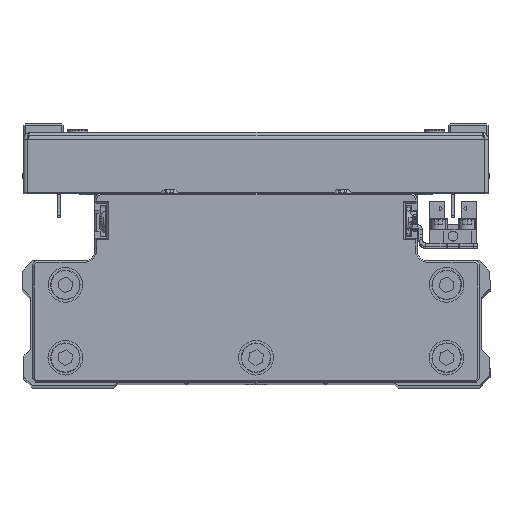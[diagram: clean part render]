
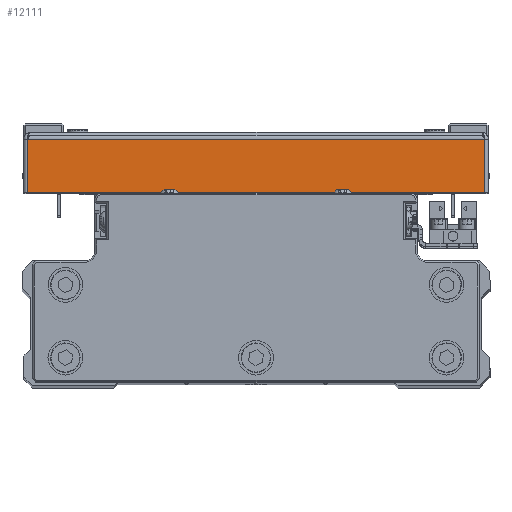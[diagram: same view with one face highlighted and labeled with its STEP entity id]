
A CAD part, top view. The second image highlights one B-rep face of the part: STEP entity #12111.
In plain terms, the highlighted planar face has unit normal (0, 0, 1) as drawn and (1, 0, 0) by its records, which use the part's own axes.
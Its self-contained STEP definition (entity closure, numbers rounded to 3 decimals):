
#27 = VERTEX_POINT ( 'NONE', #42692 ) ;
#285 = LINE ( 'NONE', #13594, #14841 ) ;
#640 = EDGE_CURVE ( 'NONE', #38470, #27, #285, .T. ) ;
#1854 = AXIS2_PLACEMENT_3D ( 'NONE', #10901, #24228, #37544 ) ;
#4946 = CARTESIAN_POINT ( 'NONE',  ( 75., 16.5, -65.929 ) ) ;
#5139 = LINE ( 'NONE', #18465, #39036 ) ;
#5420 = DIRECTION ( 'NONE',  ( 0., 0., 1. ) ) ;
#6560 = DIRECTION ( 'NONE',  ( 0., 1., 0. ) ) ;
#9215 = EDGE_LOOP ( 'NONE', ( #24085, #10815, #25338, #38694 ) ) ;
#10815 = ORIENTED_EDGE ( 'NONE', *, *, #22914, .T. ) ;
#10901 = CARTESIAN_POINT ( 'NONE',  ( 75., 0., 0. ) ) ;
#12111 = ADVANCED_FACE ( 'NONE', ( #27502 ), #40805, .F. ) ;
#13594 = CARTESIAN_POINT ( 'NONE',  ( 75., 0., 65.929 ) ) ;
#14499 = VECTOR ( 'NONE', #5420, 1000. ) ;
#14841 = VECTOR ( 'NONE', #26912, 1000. ) ;
#17306 = VECTOR ( 'NONE', #6560, 1000. ) ;
#18465 = CARTESIAN_POINT ( 'NONE',  ( 75., 1., 67. ) ) ;
#20155 = VERTEX_POINT ( 'NONE', #4946 ) ;
#22000 = LINE ( 'NONE', #35334, #14499 ) ;
#22914 = EDGE_CURVE ( 'NONE', #39428, #20155, #23163, .T. ) ;
#23163 = LINE ( 'NONE', #36485, #17306 ) ;
#23507 = EDGE_CURVE ( 'NONE', #39428, #38470, #5139, .T. ) ;
#23735 = CARTESIAN_POINT ( 'NONE',  ( 75., 1., 65.929 ) ) ;
#24085 = ORIENTED_EDGE ( 'NONE', *, *, #23507, .F. ) ;
#24228 = DIRECTION ( 'NONE',  ( -1., 0., 0. ) ) ;
#25338 = ORIENTED_EDGE ( 'NONE', *, *, #37259, .T. ) ;
#26912 = DIRECTION ( 'NONE',  ( 0., 1., 0. ) ) ;
#27502 = FACE_OUTER_BOUND ( 'NONE', #9215, .T. ) ;
#31760 = DIRECTION ( 'NONE',  ( 0., 0., 1. ) ) ;
#34269 = CARTESIAN_POINT ( 'NONE',  ( 75., 1., -65.929 ) ) ;
#35334 = CARTESIAN_POINT ( 'NONE',  ( 75., 16.5, 0. ) ) ;
#36485 = CARTESIAN_POINT ( 'NONE',  ( 75., 0., -65.929 ) ) ;
#37259 = EDGE_CURVE ( 'NONE', #20155, #27, #22000, .T. ) ;
#37544 = DIRECTION ( 'NONE',  ( 0., -1., 0. ) ) ;
#38470 = VERTEX_POINT ( 'NONE', #23735 ) ;
#38694 = ORIENTED_EDGE ( 'NONE', *, *, #640, .F. ) ;
#39036 = VECTOR ( 'NONE', #31760, 1000. ) ;
#39428 = VERTEX_POINT ( 'NONE', #34269 ) ;
#40805 = PLANE ( 'NONE',  #1854 ) ;
#42692 = CARTESIAN_POINT ( 'NONE',  ( 75., 16.5, 65.929 ) ) ;
